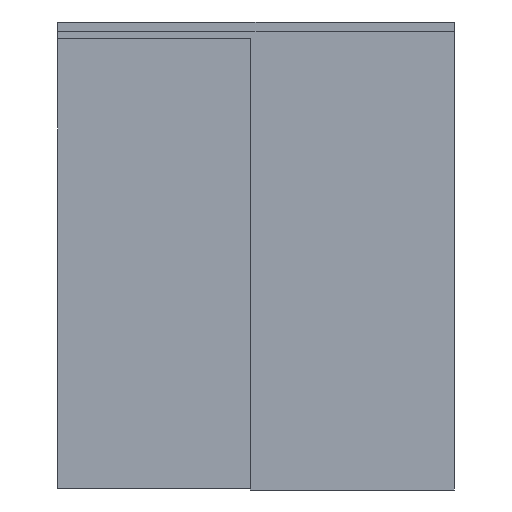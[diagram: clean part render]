
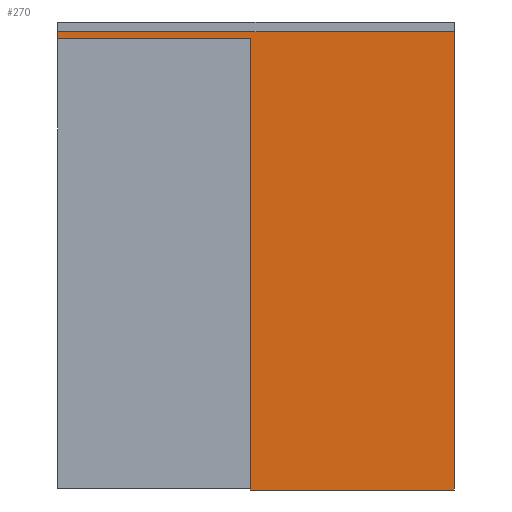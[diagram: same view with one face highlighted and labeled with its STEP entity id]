
A CAD part, front view. The second image highlights one B-rep face of the part: STEP entity #270.
In plain terms, the highlighted planar face has unit normal (0, -1, 0).
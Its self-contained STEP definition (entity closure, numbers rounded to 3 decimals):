
#270=ADVANCED_FACE('',(#676),#677,.F.);
#676=FACE_OUTER_BOUND('',#1233,.T.);
#677=PLANE('',#1234);
#1233=EDGE_LOOP('',(#1951,#1952,#1953,#1954,#1955,#1956));
#1234=AXIS2_PLACEMENT_3D('',#1957,#1958,#1959);
#1951=ORIENTED_EDGE('',*,*,#3396,.T.);
#1952=ORIENTED_EDGE('',*,*,#3386,.F.);
#1953=ORIENTED_EDGE('',*,*,#3390,.F.);
#1954=ORIENTED_EDGE('',*,*,#3394,.T.);
#1955=ORIENTED_EDGE('',*,*,#3397,.F.);
#1956=ORIENTED_EDGE('',*,*,#3398,.F.);
#1957=CARTESIAN_POINT('',(0.0,-44.,2333.0));
#1958=DIRECTION('',(0.0,1.0,-0.0));
#1959=DIRECTION('',(0.0,0.0,1.0));
#3386=EDGE_CURVE('',#4068,#4063,#4070,.T.);
#3390=EDGE_CURVE('',#4074,#4068,#4076,.T.);
#3394=EDGE_CURVE('',#4074,#4080,#4082,.T.);
#3396=EDGE_CURVE('',#4084,#4063,#4085,.T.);
#3397=EDGE_CURVE('',#4086,#4080,#4087,.T.);
#3398=EDGE_CURVE('',#4084,#4086,#4088,.T.);
#4063=VERTEX_POINT('',#5063);
#4068=VERTEX_POINT('',#5070);
#4070=LINE('',#5073,#5074);
#4074=VERTEX_POINT('',#5079);
#4076=LINE('',#5082,#5083);
#4080=VERTEX_POINT('',#5088);
#4082=LINE('',#5091,#5092);
#4084=VERTEX_POINT('',#5094);
#4085=LINE('',#5095,#5096);
#4086=VERTEX_POINT('',#5097);
#4087=LINE('',#5098,#5099);
#4088=LINE('',#5100,#5101);
#5063=CARTESIAN_POINT('',(995.0,-44.,2335.0));
#5070=CARTESIAN_POINT('',(995.0,-44.,0.0));
#5073=CARTESIAN_POINT('',(995.0,-44.,7.0));
#5074=VECTOR('',#6247,1.0);
#5079=CARTESIAN_POINT('',(2050.0,-44.,0.0));
#5082=CARTESIAN_POINT('',(1327.5,-44.,0.0));
#5083=VECTOR('',#6250,1.0);
#5088=CARTESIAN_POINT('',(2050.0,-44.,2368.0));
#5091=CARTESIAN_POINT('',(2050.0,-44.,7.0));
#5092=VECTOR('',#6253,1.0);
#5094=CARTESIAN_POINT('',(0.0,-44.,2335.0));
#5095=CARTESIAN_POINT('',(0.0,-44.,2335.0));
#5096=VECTOR('',#6254,1.0);
#5097=CARTESIAN_POINT('',(0.0,-44.,2368.0));
#5098=CARTESIAN_POINT('',(1270.0,-44.,2368.0));
#5099=VECTOR('',#6255,1.0);
#5100=CARTESIAN_POINT('',(0.0,-44.,2301.0));
#5101=VECTOR('',#6256,1.0);
#6247=DIRECTION('',(0.0,0.0,1.0));
#6250=DIRECTION('',(-1.0,0.0,0.0));
#6253=DIRECTION('',(0.0,0.0,1.0));
#6254=DIRECTION('',(1.0,0.0,0.0));
#6255=DIRECTION('',(1.0,0.0,0.0));
#6256=DIRECTION('',(0.0,0.0,1.0));
